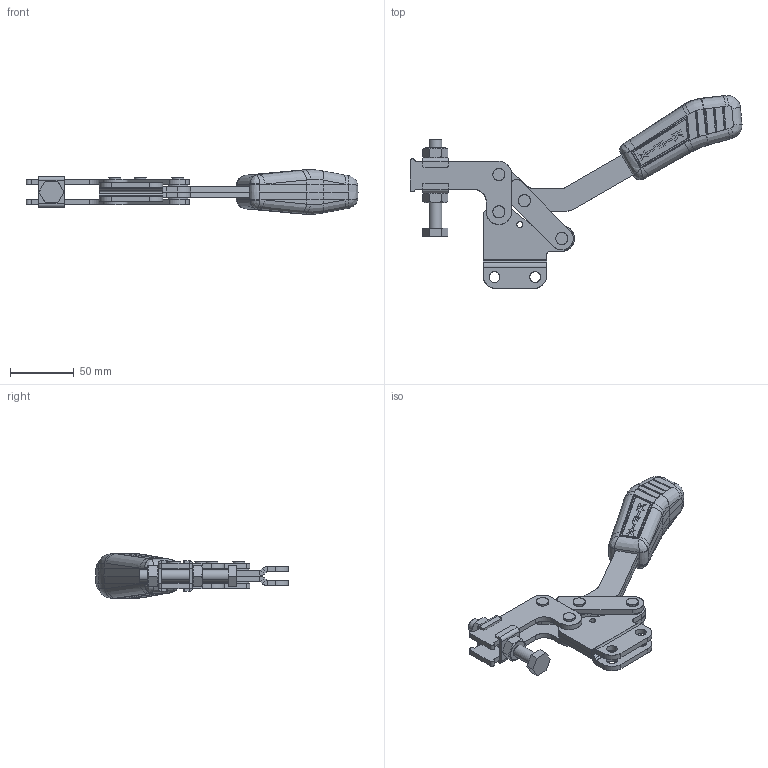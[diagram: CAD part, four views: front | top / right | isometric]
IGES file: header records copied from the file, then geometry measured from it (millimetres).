
Start section: SolidWorks IGES file using analytic representation for surfaces
Global section: file name: C:\Projetos\Grampos\KF-541\KF-541 RI\KF-541 RI.IGS; native system: SolidWorks 2013; preprocessor: SolidWorks 2013; author: Ricardo; date: 140818.142531; units: millimetre
Bounding box: 261.3 x 151.86 x 35.04 mm (x, y, z)
Surface area: 81635.5 mm2 (no closed solid volume)
Topology: 0 solids, 0 shells, 826 faces, 9584 edges, 9553 vertices
Faces by surface type: bspline 448, revolution 378
